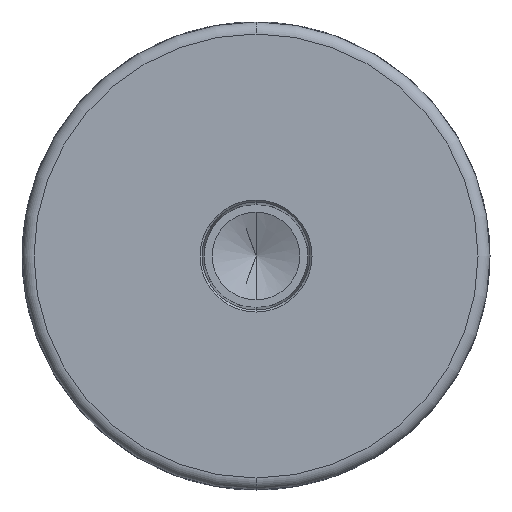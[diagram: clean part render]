
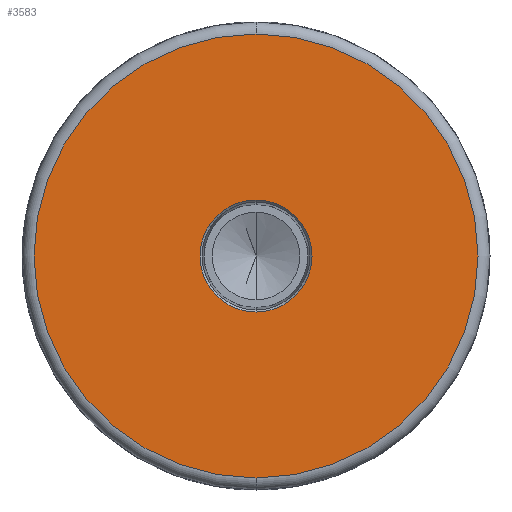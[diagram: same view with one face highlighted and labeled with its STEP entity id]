
A CAD part, front view. The second image highlights one B-rep face of the part: STEP entity #3583.
In plain terms, the highlighted planar face has unit normal (0, -1, 0).
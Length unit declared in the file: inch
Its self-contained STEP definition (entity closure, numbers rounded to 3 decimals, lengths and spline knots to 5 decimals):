
#621 = CARTESIAN_POINT ( 'NONE',  ( 0., 0., 0. ) ) ;
#622 = CARTESIAN_POINT ( 'NONE',  ( 0., 0., 1.11 ) ) ;
#730 = CARTESIAN_POINT ( 'NONE',  ( 0., 0., -1.11 ) ) ;
#731 = DIRECTION ( 'NONE',  ( 0., 0., 1. ) ) ;
#732 = DIRECTION ( 'NONE',  ( 0., -1., 0. ) ) ;
#733 = AXIS2_PLACEMENT_3D ( 'NONE', #621, #732, #731 ) ;
#734 = CIRCLE ( 'NONE', #733, 1.11 ) ;
#1491 = CARTESIAN_POINT ( 'NONE',  ( 0., 0., -0.28 ) ) ;
#1492 = DIRECTION ( 'NONE',  ( 0., 0., -1. ) ) ;
#1493 = DIRECTION ( 'NONE',  ( 0., -1., 0. ) ) ;
#1494 = CARTESIAN_POINT ( 'NONE',  ( 0., 0., 0. ) ) ;
#1495 = AXIS2_PLACEMENT_3D ( 'NONE', #1494, #1493, #1492 ) ;
#1496 = CIRCLE ( 'NONE', #1495, 0.28 ) ;
#1577 = DIRECTION ( 'NONE',  ( 0., 0., 1. ) ) ;
#1578 = DIRECTION ( 'NONE',  ( 0., -1., 0. ) ) ;
#1579 = CARTESIAN_POINT ( 'NONE',  ( 0., 0., 0. ) ) ;
#1580 = AXIS2_PLACEMENT_3D ( 'NONE', #1579, #1578, #1577 ) ;
#1584 = CIRCLE ( 'NONE', #1580, 1.11 ) ;
#1587 = DIRECTION ( 'NONE',  ( 0., 0., 1. ) ) ;
#1588 = DIRECTION ( 'NONE',  ( 0., 1., 0. ) ) ;
#1589 = AXIS2_PLACEMENT_3D ( 'NONE', #1607, #1588, #1587 ) ;
#1607 = CARTESIAN_POINT ( 'NONE',  ( 0., 0., 0. ) ) ;
#1608 = PLANE ( 'NONE',  #1589 ) ;
#1609 = FACE_OUTER_BOUND ( 'NONE', #3575, .T. ) ;
#1704 = FACE_BOUND ( 'NONE', #3591, .T. ) ;
#1709 = DIRECTION ( 'NONE',  ( 0., 0., -1. ) ) ;
#1710 = DIRECTION ( 'NONE',  ( 0., -1., 0. ) ) ;
#1711 = CARTESIAN_POINT ( 'NONE',  ( 0., 0., 0. ) ) ;
#1712 = AXIS2_PLACEMENT_3D ( 'NONE', #1711, #1710, #1709 ) ;
#1722 = CIRCLE ( 'NONE', #1712, 0.28 ) ;
#1764 = CARTESIAN_POINT ( 'NONE',  ( 0., 0., 0.28 ) ) ;
#3199 = VERTEX_POINT ( 'NONE', #622 ) ;
#3201 = EDGE_CURVE ( 'NONE', #3202, #3199, #734, .T. ) ;
#3202 = VERTEX_POINT ( 'NONE', #730 ) ;
#3508 = EDGE_CURVE ( 'NONE', #3539, #3509, #1496, .T. ) ;
#3509 = VERTEX_POINT ( 'NONE', #1491 ) ;
#3539 = VERTEX_POINT ( 'NONE', #1764 ) ;
#3573 = ORIENTED_EDGE ( 'NONE', *, *, #3574, .F. ) ;
#3574 = EDGE_CURVE ( 'NONE', #3509, #3539, #1722, .T. ) ;
#3575 = EDGE_LOOP ( 'NONE', ( #3576, #3588 ) ) ;
#3576 = ORIENTED_EDGE ( 'NONE', *, *, #3587, .T. ) ;
#3583 = ADVANCED_FACE ( 'NONE', ( #1704, #1609 ), #1608, .F. ) ;
#3587 = EDGE_CURVE ( 'NONE', #3199, #3202, #1584, .T. ) ;
#3588 = ORIENTED_EDGE ( 'NONE', *, *, #3201, .T. ) ;
#3590 = ORIENTED_EDGE ( 'NONE', *, *, #3508, .F. ) ;
#3591 = EDGE_LOOP ( 'NONE', ( #3573, #3590 ) ) ;
